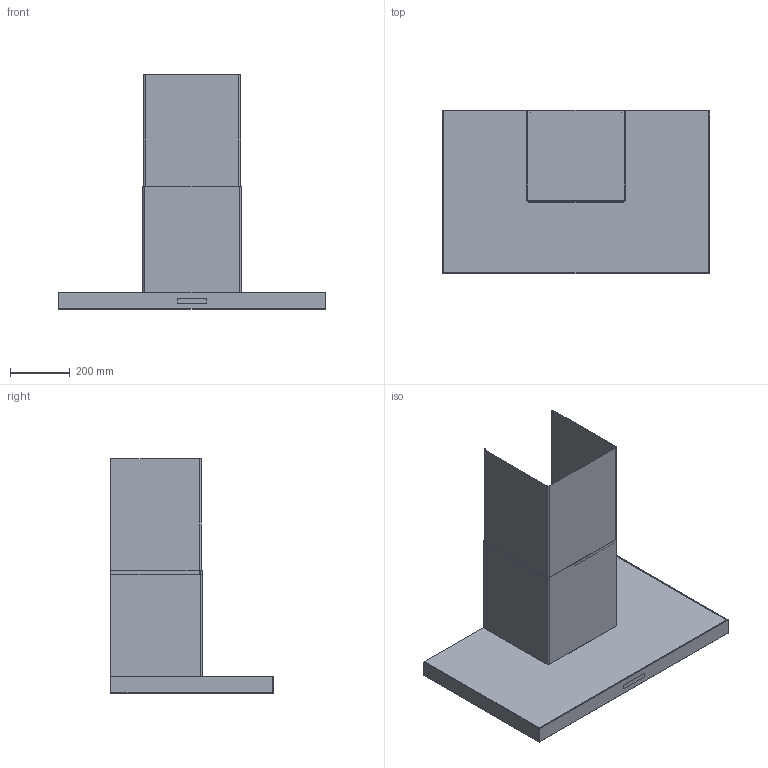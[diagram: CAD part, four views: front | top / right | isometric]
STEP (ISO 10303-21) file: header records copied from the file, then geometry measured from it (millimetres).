
FILE_DESCRIPTION(('CATIA V6 STEP','CAx-IF Rec.Pracs.--- Model Styling and Organization---1.2---2011-12-15'),'2;1');
FILE_NAME('P:\Dok-proj\DA\DA Betreuung\3D-Planungsdaten\2018\Modell DWPQ\6202200002-A.stp','2018-02-06T09:43:55+00:00',('none'),('none'),'CATIA Unofficial Packaging Version','DASSAULT SYSTEMES CATIA V6 STEP AP214','none');
FILE_SCHEMA(('AUTOMOTIVE_DESIGN { 1 0 10303 214 1 1 1 1 }'));
Length unit declared in the file: millimetre
Products named in the file (1): 1055465
Bounding box: 898 x 550.1 x 787.3 mm (x, y, z)
Volume: 26255902.6 mm3; surface area: 3589479.9 mm2
Topology: 11 solids, 11 shells, 205 faces, 484 edges, 300 vertices
Faces by surface type: plane 125, cylinder 48, cone 24, extrusion 8
Entity records: 5794 total; most frequent: CARTESIAN_POINT 1229, ORIENTED_EDGE 968, DIRECTION 788, EDGE_CURVE 484, VECTOR 364, LINE 356, VERTEX_POINT 300, AXIS2_PLACEMENT_3D 257
